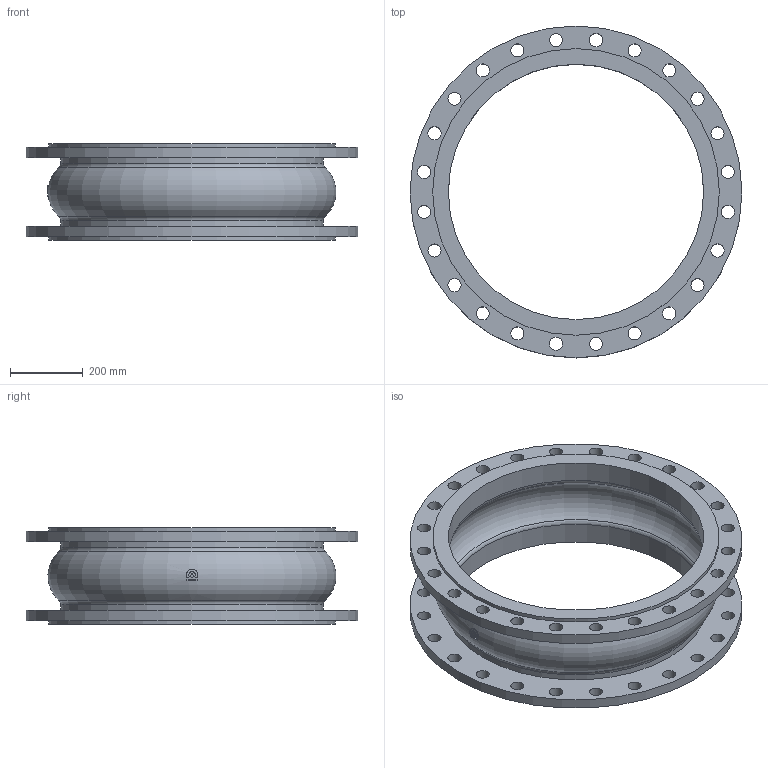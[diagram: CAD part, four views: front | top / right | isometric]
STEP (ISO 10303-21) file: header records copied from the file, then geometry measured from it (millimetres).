
FILE_DESCRIPTION(('STEP AP203'), '1');
FILE_NAME('Êîìïåíñàòîð KMS DN700 PN16', '', ('UNSPECIFIED'), ('UNSPECIFIED'), 'ASCON STEP Converter 1.6', 'ASCON Math Kernel', '');
FILE_SCHEMA(('CONFIG_CONTROL_DESIGN'));
Length unit declared in the file: millimetre
Bounding box: 910 x 910 x 265 mm (x, y, z)
Volume: 20458164.1 mm3; surface area: 2430596.9 mm2
Topology: 1 solids, 1 shells, 85 faces, 220 edges, 144 vertices
Faces by surface type: cylinder 63, plane 13, torus 9
Full cylindrical faces by diameter (mm): 36 x48, 700 x2, 720 x2, 786 x2, 910 x2
Entity records: 4242 total; most frequent: CARTESIAN_POINT 1421, DIRECTION 430, ORIENTED_EDGE 316, EDGE_LOOP 252, AXIS2_PLACEMENT_3D 208, EDGE_CURVE 158, VERTEX_POINT 144, FACE_BOUND 128
